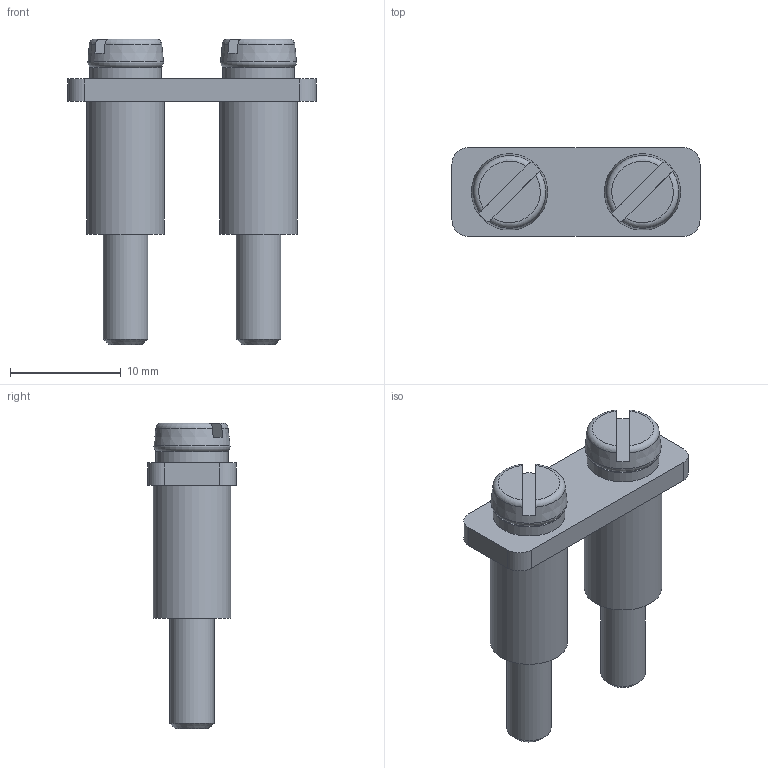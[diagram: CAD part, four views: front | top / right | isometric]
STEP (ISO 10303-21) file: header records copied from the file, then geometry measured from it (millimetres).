
FILE_DESCRIPTION(('STEP AP214'), '1');
FILE_NAME('Ìîñò Ì5-2 Ó3 Ñáîðêà', '2024-06-07T05:30:28', (''), (''), 'ASCON STEP Converter 1.6', 'ASCON Math Kernel', '');
FILE_SCHEMA(('AUTOMOTIVE_DESIGN { 1 0 10303 214 3 1 1}'));
Length unit declared in the file: millimetre
Products named in the file (1): Ìîñò Ì5-2 Ó3
Bounding box: 22.4 x 8 x 27.6 mm (x, y, z)
Volume: 1753.1 mm3; surface area: 1436.1 mm2
Topology: 1 solids, 1 shells, 42 faces, 92 edges, 60 vertices
Faces by surface type: plane 22, cylinder 10, torus 6, cone 4
Full cylindrical faces by diameter (mm): 4 x2, 6.5 x2, 7 x2
Entity records: 1584 total; most frequent: CARTESIAN_POINT 319, DIRECTION 190, ORIENTED_EDGE 160, AXIS2_PLACEMENT_3D 83, EDGE_CURVE 80, EDGE_LOOP 62, VERTEX_POINT 60, COLOUR_RGB 43
